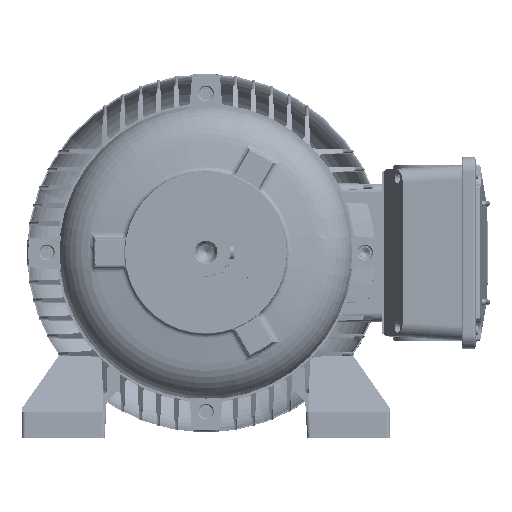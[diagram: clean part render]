
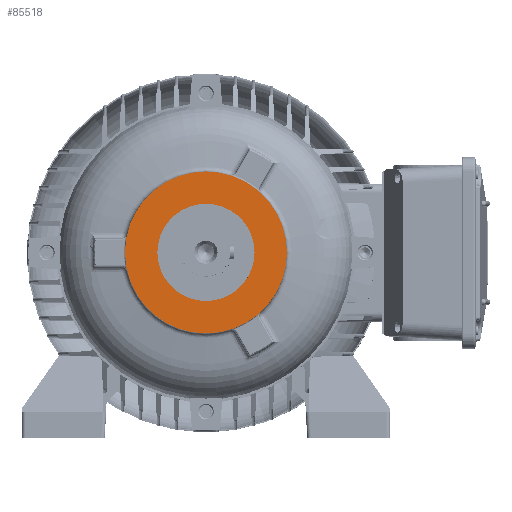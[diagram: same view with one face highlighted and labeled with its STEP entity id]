
A CAD part, top view. The second image highlights one B-rep face of the part: STEP entity #85518.
In plain terms, the highlighted planar face has unit normal (0, 0, 1) as drawn and (-1, 0, 0) by its records, which use the part's own axes.
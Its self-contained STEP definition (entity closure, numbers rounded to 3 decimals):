
#7227 = DIRECTION ( 'NONE',  ( -1., 0., 0. ) ) ;
#11327 = AXIS2_PLACEMENT_3D ( 'NONE', #142479, #45184, #158849 ) ;
#12227 = EDGE_CURVE ( 'NONE', #133667, #13587, #53256, .T. ) ;
#13587 = VERTEX_POINT ( 'NONE', #168775 ) ;
#21889 = CARTESIAN_POINT ( 'NONE',  ( 2., 0., 42. ) ) ;
#22290 = DIRECTION ( 'NONE',  ( -1., 0., 0. ) ) ;
#30977 = FACE_BOUND ( 'NONE', #108241, .T. ) ;
#31047 = EDGE_CURVE ( 'NONE', #155584, #94332, #138255, .T. ) ;
#34011 = DIRECTION ( 'NONE',  ( 0., 0., 1. ) ) ;
#45184 = DIRECTION ( 'NONE',  ( -1., 0., 0. ) ) ;
#46482 = DIRECTION ( 'NONE',  ( -1., 0., 0. ) ) ;
#53256 = CIRCLE ( 'NONE', #11327, 70. ) ;
#56837 = CIRCLE ( 'NONE', #61954, 42. ) ;
#61954 = AXIS2_PLACEMENT_3D ( 'NONE', #143765, #46482, #160137 ) ;
#78703 = CIRCLE ( 'NONE', #181513, 70. ) ;
#85518 = ADVANCED_FACE ( 'NONE', ( #160660, #30977 ), #195259, .T. ) ;
#88914 = AXIS2_PLACEMENT_3D ( 'NONE', #97851, #131282, #34011 ) ;
#94332 = VERTEX_POINT ( 'NONE', #21889 ) ;
#96444 = CARTESIAN_POINT ( 'NONE',  ( 2., 0., 70. ) ) ;
#97851 = CARTESIAN_POINT ( 'NONE',  ( 2., -42., 0. ) ) ;
#100357 = AXIS2_PLACEMENT_3D ( 'NONE', #104530, #7227, #120927 ) ;
#104530 = CARTESIAN_POINT ( 'NONE',  ( 2., 0., 0. ) ) ;
#108241 = EDGE_LOOP ( 'NONE', ( #187426, #181862 ) ) ;
#113386 = CARTESIAN_POINT ( 'NONE',  ( 2., 0., -42. ) ) ;
#119620 = CARTESIAN_POINT ( 'NONE',  ( 2., 0., 0. ) ) ;
#120927 = DIRECTION ( 'NONE',  ( 0., 0., 1. ) ) ;
#131282 = DIRECTION ( 'NONE',  ( -1., 0., 0. ) ) ;
#133667 = VERTEX_POINT ( 'NONE', #96444 ) ;
#135924 = DIRECTION ( 'NONE',  ( 0., 0., 1. ) ) ;
#138255 = CIRCLE ( 'NONE', #100357, 42. ) ;
#142479 = CARTESIAN_POINT ( 'NONE',  ( 2., 0., 0. ) ) ;
#143765 = CARTESIAN_POINT ( 'NONE',  ( 2., 0., 0. ) ) ;
#155584 = VERTEX_POINT ( 'NONE', #113386 ) ;
#158849 = DIRECTION ( 'NONE',  ( 0., 0., 1. ) ) ;
#160137 = DIRECTION ( 'NONE',  ( 0., 0., 1. ) ) ;
#160660 = FACE_OUTER_BOUND ( 'NONE', #190345, .T. ) ;
#166411 = ORIENTED_EDGE ( 'NONE', *, *, #12227, .T. ) ;
#168775 = CARTESIAN_POINT ( 'NONE',  ( 2., 0., -70. ) ) ;
#174226 = EDGE_CURVE ( 'NONE', #13587, #133667, #78703, .T. ) ;
#178795 = ORIENTED_EDGE ( 'NONE', *, *, #174226, .T. ) ;
#181513 = AXIS2_PLACEMENT_3D ( 'NONE', #119620, #22290, #135924 ) ;
#181862 = ORIENTED_EDGE ( 'NONE', *, *, #31047, .F. ) ;
#187426 = ORIENTED_EDGE ( 'NONE', *, *, #205181, .F. ) ;
#190345 = EDGE_LOOP ( 'NONE', ( #166411, #178795 ) ) ;
#195259 = PLANE ( 'NONE',  #88914 ) ;
#205181 = EDGE_CURVE ( 'NONE', #94332, #155584, #56837, .T. ) ;
